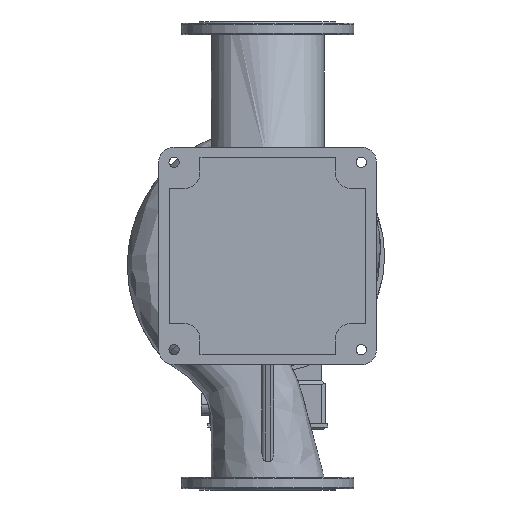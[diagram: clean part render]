
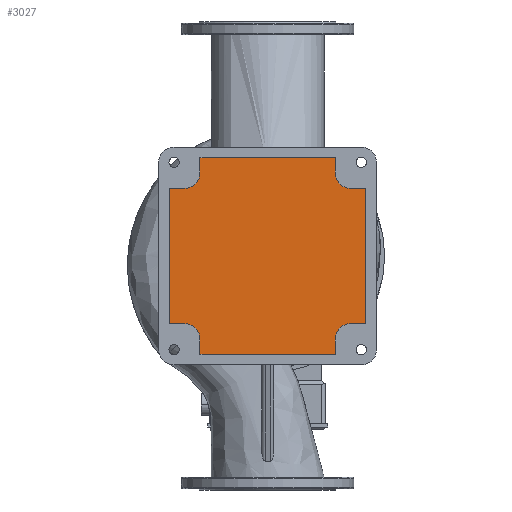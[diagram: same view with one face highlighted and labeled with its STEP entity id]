
A CAD part, front view. The second image highlights one B-rep face of the part: STEP entity #3027.
In plain terms, the highlighted planar face has unit normal (0, -1, 0).
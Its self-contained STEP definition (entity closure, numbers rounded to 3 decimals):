
#669 = EDGE_CURVE ( 'NONE', #19251, #12234, #17001, .T. ) ;
#791 = VERTEX_POINT ( 'NONE', #1957 ) ;
#889 = EDGE_CURVE ( 'NONE', #14699, #27844, #18237, .T. ) ;
#963 = VERTEX_POINT ( 'NONE', #4993 ) ;
#1338 = DIRECTION ( 'NONE',  ( 0., 0., 1. ) ) ;
#1444 = EDGE_CURVE ( 'NONE', #18020, #20566, #28297, .T. ) ;
#1957 = CARTESIAN_POINT ( 'NONE',  ( 159., -295., 231. ) ) ;
#2303 = CARTESIAN_POINT ( 'NONE',  ( 231., -295., 159. ) ) ;
#2717 = CARTESIAN_POINT ( 'NONE',  ( -159., -295., 195. ) ) ;
#3027 = ADVANCED_FACE ( 'NONE', ( #17264 ), #17092, .F. ) ;
#3092 = LINE ( 'NONE', #16359, #10492 ) ;
#3175 = ORIENTED_EDGE ( 'NONE', *, *, #19447, .T. ) ;
#3305 = EDGE_CURVE ( 'NONE', #963, #6119, #13919, .T. ) ;
#3390 = ORIENTED_EDGE ( 'NONE', *, *, #3785, .T. ) ;
#3514 = VECTOR ( 'NONE', #7865, 1000. ) ;
#3606 = CIRCLE ( 'NONE', #7061, 36. ) ;
#3785 = EDGE_CURVE ( 'NONE', #34938, #10036, #21827, .T. ) ;
#3912 = CARTESIAN_POINT ( 'NONE',  ( 159., -295., -231. ) ) ;
#4119 = CARTESIAN_POINT ( 'NONE',  ( -195., -295., 195. ) ) ;
#4447 = CARTESIAN_POINT ( 'NONE',  ( 159., -295., 195. ) ) ;
#4464 = DIRECTION ( 'NONE',  ( 0., 0., 1. ) ) ;
#4639 = DIRECTION ( 'NONE',  ( 0., 1., 0. ) ) ;
#4993 = CARTESIAN_POINT ( 'NONE',  ( 159., -295., -195. ) ) ;
#5361 = CARTESIAN_POINT ( 'NONE',  ( -159., -295., -195. ) ) ;
#5727 = CARTESIAN_POINT ( 'NONE',  ( -231., -295., 159. ) ) ;
#6119 = VERTEX_POINT ( 'NONE', #31558 ) ;
#6248 = DIRECTION ( 'NONE',  ( 1., 0., 0. ) ) ;
#6601 = ORIENTED_EDGE ( 'NONE', *, *, #9746, .T. ) ;
#6771 = CARTESIAN_POINT ( 'NONE',  ( -195., -295., 159. ) ) ;
#6914 = CIRCLE ( 'NONE', #32091, 36. ) ;
#7061 = AXIS2_PLACEMENT_3D ( 'NONE', #4119, #31713, #29377 ) ;
#7124 = AXIS2_PLACEMENT_3D ( 'NONE', #24469, #29500, #21766 ) ;
#7851 = DIRECTION ( 'NONE',  ( 0., 0., 1. ) ) ;
#7865 = DIRECTION ( 'NONE',  ( -1., 0., 0. ) ) ;
#9116 = DIRECTION ( 'NONE',  ( 0., 0., 1. ) ) ;
#9563 = VECTOR ( 'NONE', #25773, 1000. ) ;
#9746 = EDGE_CURVE ( 'NONE', #6119, #14699, #3092, .T. ) ;
#9772 = CARTESIAN_POINT ( 'NONE',  ( -159., -295., -195. ) ) ;
#10036 = VERTEX_POINT ( 'NONE', #33318 ) ;
#10347 = CARTESIAN_POINT ( 'NONE',  ( 159., -295., 195. ) ) ;
#10492 = VECTOR ( 'NONE', #27285, 1000. ) ;
#10606 = CARTESIAN_POINT ( 'NONE',  ( 231., -295., 159. ) ) ;
#10729 = DIRECTION ( 'NONE',  ( 0., 0., -1. ) ) ;
#10844 = EDGE_CURVE ( 'NONE', #30589, #34938, #6914, .T. ) ;
#11823 = CARTESIAN_POINT ( 'NONE',  ( 159., -295., -195. ) ) ;
#11953 = EDGE_CURVE ( 'NONE', #791, #13304, #19494, .T. ) ;
#12234 = VERTEX_POINT ( 'NONE', #31844 ) ;
#12977 = CARTESIAN_POINT ( 'NONE',  ( -159., -295., 195. ) ) ;
#13263 = VERTEX_POINT ( 'NONE', #18681 ) ;
#13304 = VERTEX_POINT ( 'NONE', #34143 ) ;
#13919 = CIRCLE ( 'NONE', #32818, 36. ) ;
#13999 = VECTOR ( 'NONE', #7851, 1000. ) ;
#14104 = EDGE_CURVE ( 'NONE', #10036, #30114, #34192, .T. ) ;
#14246 = EDGE_CURVE ( 'NONE', #20566, #791, #26298, .T. ) ;
#14253 = CARTESIAN_POINT ( 'NONE',  ( 231., -295., -159. ) ) ;
#14276 = VECTOR ( 'NONE', #27424, 1000. ) ;
#14699 = VERTEX_POINT ( 'NONE', #14253 ) ;
#14825 = DIRECTION ( 'NONE',  ( 1., 0., 0. ) ) ;
#15192 = CARTESIAN_POINT ( 'NONE',  ( 195., -295., 159. ) ) ;
#16321 = ORIENTED_EDGE ( 'NONE', *, *, #21777, .T. ) ;
#16359 = CARTESIAN_POINT ( 'NONE',  ( 195., -295., -159. ) ) ;
#17001 = LINE ( 'NONE', #22908, #9563 ) ;
#17092 = PLANE ( 'NONE',  #20858 ) ;
#17171 = LINE ( 'NONE', #33837, #26256 ) ;
#17264 = FACE_OUTER_BOUND ( 'NONE', #29884, .T. ) ;
#17398 = ORIENTED_EDGE ( 'NONE', *, *, #11953, .T. ) ;
#17571 = ORIENTED_EDGE ( 'NONE', *, *, #889, .T. ) ;
#17694 = DIRECTION ( 'NONE',  ( -1., 0., 0. ) ) ;
#17697 = ORIENTED_EDGE ( 'NONE', *, *, #3305, .T. ) ;
#18020 = VERTEX_POINT ( 'NONE', #15192 ) ;
#18237 = LINE ( 'NONE', #2303, #13999 ) ;
#18396 = VECTOR ( 'NONE', #34033, 1000. ) ;
#18544 = VECTOR ( 'NONE', #9116, 1000. ) ;
#18681 = CARTESIAN_POINT ( 'NONE',  ( -195., -295., 159. ) ) ;
#18727 = ORIENTED_EDGE ( 'NONE', *, *, #14246, .T. ) ;
#19251 = VERTEX_POINT ( 'NONE', #5727 ) ;
#19253 = ORIENTED_EDGE ( 'NONE', *, *, #10844, .T. ) ;
#19447 = EDGE_CURVE ( 'NONE', #13263, #19251, #31321, .T. ) ;
#19494 = LINE ( 'NONE', #21490, #3514 ) ;
#19794 = CARTESIAN_POINT ( 'NONE',  ( -195., -295., -195. ) ) ;
#20374 = EDGE_CURVE ( 'NONE', #27844, #18020, #23106, .T. ) ;
#20566 = VERTEX_POINT ( 'NONE', #10347 ) ;
#20858 = AXIS2_PLACEMENT_3D ( 'NONE', #19794, #22479, #22826 ) ;
#21099 = CARTESIAN_POINT ( 'NONE',  ( 159., -295., -231. ) ) ;
#21223 = ORIENTED_EDGE ( 'NONE', *, *, #669, .T. ) ;
#21231 = CARTESIAN_POINT ( 'NONE',  ( -195., -295., -159. ) ) ;
#21267 = ORIENTED_EDGE ( 'NONE', *, *, #31141, .T. ) ;
#21490 = CARTESIAN_POINT ( 'NONE',  ( -159., -295., 231. ) ) ;
#21521 = LINE ( 'NONE', #2717, #14276 ) ;
#21766 = DIRECTION ( 'NONE',  ( 0., 0., 1. ) ) ;
#21777 = EDGE_CURVE ( 'NONE', #23476, #13263, #3606, .T. ) ;
#21827 = LINE ( 'NONE', #5361, #31085 ) ;
#22455 = ORIENTED_EDGE ( 'NONE', *, *, #20374, .T. ) ;
#22479 = DIRECTION ( 'NONE',  ( 0., 1., 0. ) ) ;
#22826 = DIRECTION ( 'NONE',  ( 0., 0., 1. ) ) ;
#22908 = CARTESIAN_POINT ( 'NONE',  ( -231., -295., -159. ) ) ;
#23014 = CARTESIAN_POINT ( 'NONE',  ( 195., -295., -195. ) ) ;
#23106 = LINE ( 'NONE', #29001, #18396 ) ;
#23461 = CARTESIAN_POINT ( 'NONE',  ( -195., -295., -195. ) ) ;
#23476 = VERTEX_POINT ( 'NONE', #12977 ) ;
#24469 = CARTESIAN_POINT ( 'NONE',  ( 195., -295., 195. ) ) ;
#25168 = EDGE_CURVE ( 'NONE', #30114, #963, #34224, .T. ) ;
#25332 = VECTOR ( 'NONE', #29349, 1000. ) ;
#25773 = DIRECTION ( 'NONE',  ( 0., 0., -1. ) ) ;
#25875 = VECTOR ( 'NONE', #14825, 1000. ) ;
#26256 = VECTOR ( 'NONE', #6248, 1000. ) ;
#26298 = LINE ( 'NONE', #4447, #25332 ) ;
#27285 = DIRECTION ( 'NONE',  ( 1., 0., 0. ) ) ;
#27424 = DIRECTION ( 'NONE',  ( 0., 0., -1. ) ) ;
#27844 = VERTEX_POINT ( 'NONE', #10606 ) ;
#28235 = VECTOR ( 'NONE', #17694, 1000. ) ;
#28297 = CIRCLE ( 'NONE', #7124, 36. ) ;
#29001 = CARTESIAN_POINT ( 'NONE',  ( 195., -295., 159. ) ) ;
#29089 = DIRECTION ( 'NONE',  ( 0., 1., 0. ) ) ;
#29349 = DIRECTION ( 'NONE',  ( 0., 0., 1. ) ) ;
#29377 = DIRECTION ( 'NONE',  ( 0., 0., 1. ) ) ;
#29500 = DIRECTION ( 'NONE',  ( 0., 1., 0. ) ) ;
#29623 = ORIENTED_EDGE ( 'NONE', *, *, #25168, .T. ) ;
#29800 = ORIENTED_EDGE ( 'NONE', *, *, #29882, .T. ) ;
#29882 = EDGE_CURVE ( 'NONE', #12234, #30589, #17171, .T. ) ;
#29884 = EDGE_LOOP ( 'NONE', ( #19253, #3390, #34144, #29623, #17697, #6601, #17571, #22455, #30967, #18727, #17398, #21267, #16321, #3175, #21223, #29800 ) ) ;
#30114 = VERTEX_POINT ( 'NONE', #21099 ) ;
#30589 = VERTEX_POINT ( 'NONE', #21231 ) ;
#30967 = ORIENTED_EDGE ( 'NONE', *, *, #1444, .T. ) ;
#31085 = VECTOR ( 'NONE', #10729, 1000. ) ;
#31141 = EDGE_CURVE ( 'NONE', #13304, #23476, #21521, .T. ) ;
#31321 = LINE ( 'NONE', #6771, #28235 ) ;
#31558 = CARTESIAN_POINT ( 'NONE',  ( 195., -295., -159. ) ) ;
#31713 = DIRECTION ( 'NONE',  ( 0., 1., 0. ) ) ;
#31844 = CARTESIAN_POINT ( 'NONE',  ( -231., -295., -159. ) ) ;
#32091 = AXIS2_PLACEMENT_3D ( 'NONE', #23461, #4639, #4464 ) ;
#32818 = AXIS2_PLACEMENT_3D ( 'NONE', #23014, #29089, #1338 ) ;
#33318 = CARTESIAN_POINT ( 'NONE',  ( -159., -295., -231. ) ) ;
#33837 = CARTESIAN_POINT ( 'NONE',  ( -195., -295., -159. ) ) ;
#34033 = DIRECTION ( 'NONE',  ( -1., 0., 0. ) ) ;
#34144 = ORIENTED_EDGE ( 'NONE', *, *, #14104, .T. ) ;
#34143 = CARTESIAN_POINT ( 'NONE',  ( -159., -295., 231. ) ) ;
#34192 = LINE ( 'NONE', #3912, #25875 ) ;
#34224 = LINE ( 'NONE', #11823, #18544 ) ;
#34938 = VERTEX_POINT ( 'NONE', #9772 ) ;
